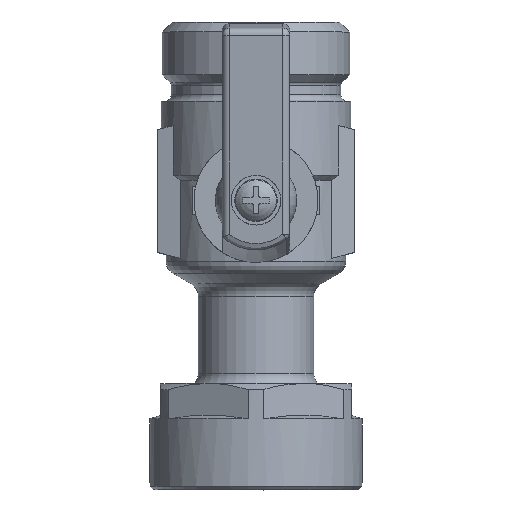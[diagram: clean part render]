
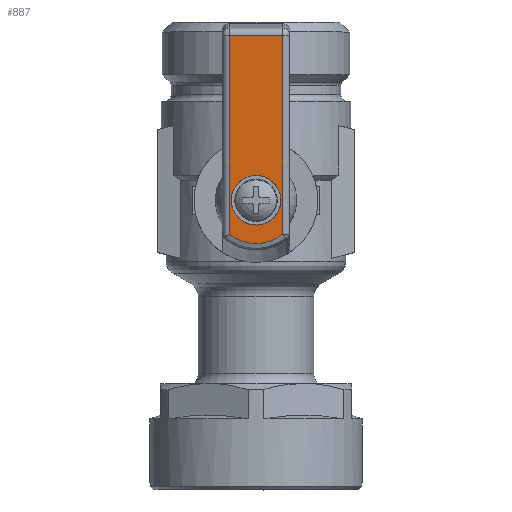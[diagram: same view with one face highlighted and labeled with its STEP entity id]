
A CAD part, top view. The second image highlights one B-rep face of the part: STEP entity #887.
In plain terms, the highlighted planar face has unit normal (0, -0.087, 0.996).
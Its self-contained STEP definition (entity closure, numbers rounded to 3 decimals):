
#887=ADVANCED_FACE('',(#7018,#7020),#7022,.T.);
#7018=FACE_BOUND('',#7019,.T.);
#7019=EDGE_LOOP('',(#12102,#12103,#12104,#12105));
#7020=FACE_BOUND('',#7021,.T.);
#7021=EDGE_LOOP('',(#12106));
#7022=PLANE('',#7023);
#7023=AXIS2_PLACEMENT_3D('',#7024,#7025,#7026);
#7024=CARTESIAN_POINT('',(-4.75,24.253,36.7));
#7025=DIRECTION('',(0.,-0.087,0.996));
#7026=DIRECTION('',(0.,-0.996,-0.087));
#12102=ORIENTED_EDGE('',*,*,#14674,.F.);
#12103=ORIENTED_EDGE('',*,*,#14672,.F.);
#12104=ORIENTED_EDGE('',*,*,#14668,.T.);
#12105=ORIENTED_EDGE('',*,*,#14664,.T.);
#12106=ORIENTED_EDGE('',*,*,#14677,.T.);
#14664=EDGE_CURVE('',#18656,#18654,#18657,.F.);
#14668=EDGE_CURVE('',#18661,#18656,#18662,.T.);
#14672=EDGE_CURVE('',#18661,#18665,#18667,.T.);
#14674=EDGE_CURVE('',#18665,#18654,#18669,.T.);
#14677=EDGE_CURVE('',#18672,#18672,#18673,.F.);
#18654=VERTEX_POINT('',#28304);
#18656=VERTEX_POINT('',#28309);
#18657=B_SPLINE_CURVE_WITH_KNOTS('',3,
(#28310,#28311,#28312,#28313,#28314,#28315,#28316,#28317,#28318,#28319,#28320,#28321,
#28322,#28323,#28324,#28325,#28326,#28327,#28328,#28329,#28330,#28331,#28332,#28333,
#28334,#28335,#28336,#28337,#28338,#28339,#28340,#28341,#28342,#28343,#28344,#28345,
#28346,#28347,#28348,#28349,#28350,#28351,#28352,#28353,#28354,#28355,#28356,#28357,
#28358,#28359,#28360,#28361,#28362,#28363,#28364,#28365,#28366,#28367,#28368,#28369,
#28370,#28371,#28372,#28373,#28374,#28375,#28376,#28377,#28378,#28379,#28380,#28381,
#28382,#28383,#28384,#28385),
.UNSPECIFIED.,.F.,.F.,
(4,2,2,2,2,2,2,2,2,2,2,2,2,2,2,2,2,2,2,2,2,2,2,2,2,2,2,2,2,2,2,2,2,2,2,2,2,4),
(0.,0.013,0.04,0.066,0.084,
0.101,0.118,0.135,0.165,0.194,
0.213,0.232,0.269,0.293,0.315,
0.36,0.406,0.429,0.52,0.565,
0.611,0.656,0.701,0.724,0.747,
0.769,0.792,0.815,0.838,0.857,
0.877,0.897,0.918,0.933,0.955,
0.976,0.997,1.),
.UNSPECIFIED.);
#18661=VERTEX_POINT('',#28412);
#18662=LINE('',#28413,#28414);
#18665=VERTEX_POINT('',#28424);
#18667=LINE('',#28429,#28430);
#18669=LINE('',#28436,#28437);
#18672=VERTEX_POINT('',#28535);
#18673=(BOUNDED_CURVE()B_SPLINE_CURVE(3,
(#28536,#28537,#28538,#28539,#28540,#28541,#28542),
.UNSPECIFIED.,.T.,.F.)B_SPLINE_CURVE_WITH_KNOTS((4,3,4),
(0.,0.5,1.),
.UNSPECIFIED.)CURVE()GEOMETRIC_REPRESENTATION_ITEM()RATIONAL_B_SPLINE_CURVE((1.,
0.333,0.333,1.,0.333,0.333,1.))
REPRESENTATION_ITEM(''));
#28304=CARTESIAN_POINT('',(3.75,-4.788,34.159));
#28309=CARTESIAN_POINT('',(-3.75,-4.788,34.159));
#28310=CARTESIAN_POINT('',(3.75,-4.788,34.159));
#28311=CARTESIAN_POINT('',(3.722,-4.81,34.157));
#28312=CARTESIAN_POINT('',(3.694,-4.833,34.155));
#28313=CARTESIAN_POINT('',(3.609,-4.899,34.15));
#28314=CARTESIAN_POINT('',(3.552,-4.943,34.146));
#28315=CARTESIAN_POINT('',(3.437,-5.026,34.138));
#28316=CARTESIAN_POINT('',(3.38,-5.066,34.135));
#28317=CARTESIAN_POINT('',(3.282,-5.132,34.129));
#28318=CARTESIAN_POINT('',(3.242,-5.158,34.127));
#28319=CARTESIAN_POINT('',(3.162,-5.21,34.122));
#28320=CARTESIAN_POINT('',(3.122,-5.234,34.12));
#28321=CARTESIAN_POINT('',(3.042,-5.283,34.116));
#28322=CARTESIAN_POINT('',(3.002,-5.307,34.114));
#28323=CARTESIAN_POINT('',(2.922,-5.352,34.11));
#28324=CARTESIAN_POINT('',(2.882,-5.375,34.108));
#28325=CARTESIAN_POINT('',(2.771,-5.435,34.103));
#28326=CARTESIAN_POINT('',(2.7,-5.472,34.099));
#28327=CARTESIAN_POINT('',(2.557,-5.543,34.093));
#28328=CARTESIAN_POINT('',(2.485,-5.577,34.09));
#28329=CARTESIAN_POINT('',(2.365,-5.63,34.086));
#28330=CARTESIAN_POINT('',(2.318,-5.65,34.084));
#28331=CARTESIAN_POINT('',(2.223,-5.69,34.08));
#28332=CARTESIAN_POINT('',(2.175,-5.709,34.079));
#28333=CARTESIAN_POINT('',(2.033,-5.763,34.074));
#28334=CARTESIAN_POINT('',(1.937,-5.797,34.071));
#28335=CARTESIAN_POINT('',(1.782,-5.848,34.067));
#28336=CARTESIAN_POINT('',(1.722,-5.866,34.065));
#28337=CARTESIAN_POINT('',(1.603,-5.901,34.062));
#28338=CARTESIAN_POINT('',(1.544,-5.917,34.06));
#28339=CARTESIAN_POINT('',(1.366,-5.963,34.056));
#28340=CARTESIAN_POINT('',(1.246,-5.99,34.054));
#28341=CARTESIAN_POINT('',(1.006,-6.036,34.05));
#28342=CARTESIAN_POINT('',(0.884,-6.056,34.048));
#28343=CARTESIAN_POINT('',(0.701,-6.08,34.046));
#28344=CARTESIAN_POINT('',(0.64,-6.087,34.046));
#28345=CARTESIAN_POINT('',(0.334,-6.117,34.043));
#28346=CARTESIAN_POINT('',(0.086,-6.125,34.042));
#28347=CARTESIAN_POINT('',(-0.283,-6.115,34.043));
#28348=CARTESIAN_POINT('',(-0.406,-6.108,34.044));
#28349=CARTESIAN_POINT('',(-0.651,-6.086,34.046));
#28350=CARTESIAN_POINT('',(-0.775,-6.071,34.047));
#28351=CARTESIAN_POINT('',(-1.018,-6.034,34.05));
#28352=CARTESIAN_POINT('',(-1.139,-6.012,34.052));
#28353=CARTESIAN_POINT('',(-1.378,-5.96,34.057));
#28354=CARTESIAN_POINT('',(-1.496,-5.931,34.059));
#28355=CARTESIAN_POINT('',(-1.673,-5.881,34.064));
#28356=CARTESIAN_POINT('',(-1.732,-5.863,34.065));
#28357=CARTESIAN_POINT('',(-1.85,-5.826,34.068));
#28358=CARTESIAN_POINT('',(-1.91,-5.806,34.07));
#28359=CARTESIAN_POINT('',(-2.025,-5.765,34.074));
#28360=CARTESIAN_POINT('',(-2.082,-5.744,34.076));
#28361=CARTESIAN_POINT('',(-2.195,-5.701,34.079));
#28362=CARTESIAN_POINT('',(-2.252,-5.678,34.081));
#28363=CARTESIAN_POINT('',(-2.365,-5.63,34.086));
#28364=CARTESIAN_POINT('',(-2.422,-5.605,34.088));
#28365=CARTESIAN_POINT('',(-2.535,-5.553,34.092));
#28366=CARTESIAN_POINT('',(-2.592,-5.526,34.095));
#28367=CARTESIAN_POINT('',(-2.695,-5.475,34.099));
#28368=CARTESIAN_POINT('',(-2.742,-5.451,34.101));
#28369=CARTESIAN_POINT('',(-2.835,-5.401,34.106));
#28370=CARTESIAN_POINT('',(-2.882,-5.375,34.108));
#28371=CARTESIAN_POINT('',(-2.976,-5.322,34.113));
#28372=CARTESIAN_POINT('',(-3.023,-5.294,34.115));
#28373=CARTESIAN_POINT('',(-3.117,-5.238,34.12));
#28374=CARTESIAN_POINT('',(-3.163,-5.209,34.122));
#28375=CARTESIAN_POINT('',(-3.245,-5.156,34.127));
#28376=CARTESIAN_POINT('',(-3.281,-5.133,34.129));
#28377=CARTESIAN_POINT('',(-3.363,-5.077,34.134));
#28378=CARTESIAN_POINT('',(-3.411,-5.044,34.137));
#28379=CARTESIAN_POINT('',(-3.504,-4.977,34.143));
#28380=CARTESIAN_POINT('',(-3.551,-4.943,34.146));
#28381=CARTESIAN_POINT('',(-3.642,-4.874,34.152));
#28382=CARTESIAN_POINT('',(-3.687,-4.838,34.155));
#28383=CARTESIAN_POINT('',(-3.738,-4.797,34.158));
#28384=CARTESIAN_POINT('',(-3.744,-4.793,34.159));
#28385=CARTESIAN_POINT('',(-3.75,-4.788,34.159));
#28412=CARTESIAN_POINT('',(-3.75,23.221,36.61));
#28413=CARTESIAN_POINT('',(-3.75,23.221,36.61));
#28414=VECTOR('',#28415,1.);
#28415=DIRECTION('',(0.,-0.996,-0.087));
#28424=CARTESIAN_POINT('',(3.75,23.221,36.61));
#28429=CARTESIAN_POINT('',(-3.75,23.221,36.61));
#28430=VECTOR('',#28431,1.);
#28431=DIRECTION('',(1.,0.,0.));
#28436=CARTESIAN_POINT('',(3.75,23.221,36.61));
#28437=VECTOR('',#28438,1.);
#28438=DIRECTION('',(0.,-0.996,-0.087));
#28535=CARTESIAN_POINT('',(3.5,0.,34.578));
#28536=CARTESIAN_POINT('',(3.5,0.,34.578));
#28537=CARTESIAN_POINT('',(3.5,7.,35.191));
#28538=CARTESIAN_POINT('',(-3.5,7.,35.191));
#28539=CARTESIAN_POINT('',(-3.5,0.,34.578));
#28540=CARTESIAN_POINT('',(-3.5,-7.,33.966));
#28541=CARTESIAN_POINT('',(3.5,-7.,33.966));
#28542=CARTESIAN_POINT('',(3.5,0.,34.578));
